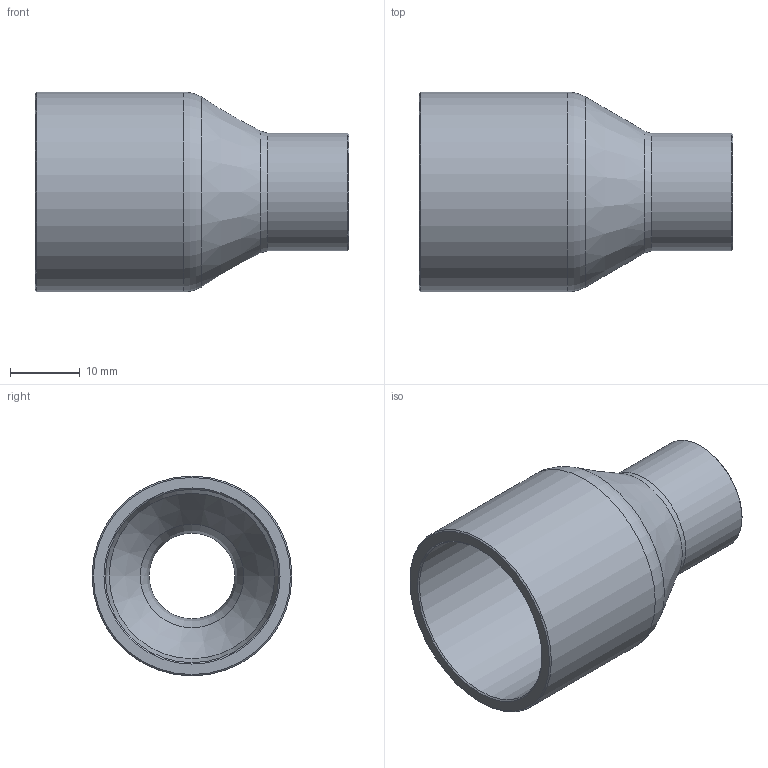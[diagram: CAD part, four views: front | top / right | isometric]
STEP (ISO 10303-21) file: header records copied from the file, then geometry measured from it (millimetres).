
FILE_DESCRIPTION((''),'2;1');
FILE_NAME('G:\SANHA-Ternat\Technik\Management\Bouwmaten + markeringen\z-maattekeningen 3D\29000s\2924311812_3d.stp','2017-08-03T16:07:41',('vdvijverd'),(''),'Autodesk Inventor 2009','Autodesk Inventor 2009','');
FILE_SCHEMA(('AUTOMOTIVE_DESIGN { 1 0 10303 214 1 1 1 1 }'));
Length unit declared in the file: millimetre
Products named in the file (1): 2924311812_3d
Bounding box: 44.8 x 28.57 x 28.57 mm (x, y, z)
Volume: 6406.9 mm3; surface area: 6612.7 mm2
Topology: 1 solids, 1 shells, 17 faces, 32 edges, 17 vertices
Faces by surface type: cone 6, cylinder 4, bspline 3, plane 2, torus 2
Full cylindrical faces by diameter (mm): 12.82 x1, 16.82 x1, 24.775 x1, 28.575 x1
Entity records: 494 total; most frequent: CARTESIAN_POINT 184, DIRECTION 64, ORIENTED_EDGE 34, EDGE_LOOP 34, AXIS2_PLACEMENT_3D 32, VERTEX_POINT 17, CIRCLE 17, EDGE_CURVE 17
